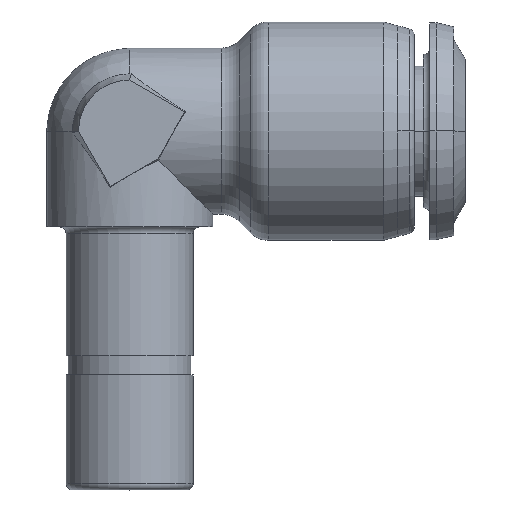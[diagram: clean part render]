
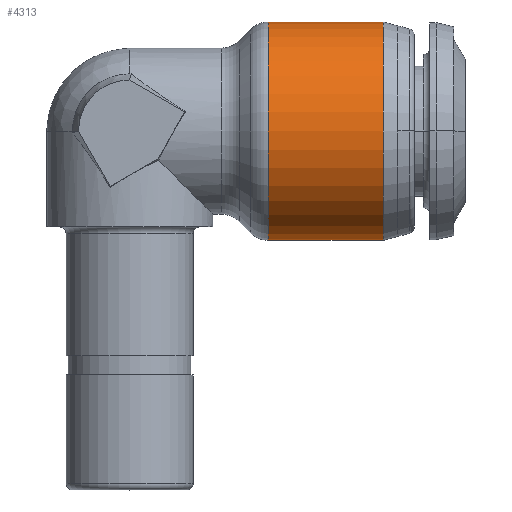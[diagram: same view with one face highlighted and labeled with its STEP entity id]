
A CAD part, top view. The second image highlights one B-rep face of the part: STEP entity #4313.
In plain terms, the highlighted cylindrical face has radius 8.55 mm (diameter 17.1 mm), a partial arc.
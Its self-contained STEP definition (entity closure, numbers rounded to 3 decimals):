
#826 = DIRECTION ( 'NONE',  ( 1., 0., 0. ) ) ;
#869 = DIRECTION ( 'NONE',  ( 0., 1., 0. ) ) ;
#882 = DIRECTION ( 'NONE',  ( 1., 0., 0. ) ) ;
#1130 = CARTESIAN_POINT ( 'NONE',  ( 21., -8.55, 0. ) ) ;
#1202 = CYLINDRICAL_SURFACE ( 'NONE', #4589, 8.55 ) ;
#1426 = ORIENTED_EDGE ( 'NONE', *, *, #1710, .F. ) ;
#1710 = EDGE_CURVE ( 'NONE', #2488, #2487, #1859, .T. ) ;
#1859 = LINE ( 'NONE', #3770, #5571 ) ;
#2036 = EDGE_CURVE ( 'NONE', #2487, #6023, #5145, .T. ) ;
#2203 = EDGE_LOOP ( 'NONE', ( #4758, #5128, #2598, #1426 ) ) ;
#2273 = CARTESIAN_POINT ( 'NONE',  ( 10.878, 0., 0. ) ) ;
#2376 = VERTEX_POINT ( 'NONE', #2818 ) ;
#2487 = VERTEX_POINT ( 'NONE', #3358 ) ;
#2488 = VERTEX_POINT ( 'NONE', #5809 ) ;
#2598 = ORIENTED_EDGE ( 'NONE', *, *, #2036, .F. ) ;
#2676 = EDGE_CURVE ( 'NONE', #2376, #6023, #5384, .T. ) ;
#2722 = DIRECTION ( 'NONE',  ( 1., 0., 0. ) ) ;
#2755 = DIRECTION ( 'NONE',  ( 0., 1., 0. ) ) ;
#2818 = CARTESIAN_POINT ( 'NONE',  ( 10.878, -8.55, 0. ) ) ;
#3250 = AXIS2_PLACEMENT_3D ( 'NONE', #5624, #2722, #6105 ) ;
#3358 = CARTESIAN_POINT ( 'NONE',  ( 19.88, 8.55, 0. ) ) ;
#3471 = FACE_OUTER_BOUND ( 'NONE', #2203, .T. ) ;
#3635 = EDGE_CURVE ( 'NONE', #2488, #2376, #4831, .T. ) ;
#3761 = CARTESIAN_POINT ( 'NONE',  ( 21., 0., 0. ) ) ;
#3770 = CARTESIAN_POINT ( 'NONE',  ( 21., 8.55, 0. ) ) ;
#4078 = VECTOR ( 'NONE', #5493, 1000. ) ;
#4313 = ADVANCED_FACE ( 'NONE', ( #3471 ), #1202, .T. ) ;
#4480 = CARTESIAN_POINT ( 'NONE',  ( 19.88, -8.55, 0. ) ) ;
#4589 = AXIS2_PLACEMENT_3D ( 'NONE', #3761, #826, #869 ) ;
#4758 = ORIENTED_EDGE ( 'NONE', *, *, #3635, .T. ) ;
#4831 = CIRCLE ( 'NONE', #5168, 8.55 ) ;
#5128 = ORIENTED_EDGE ( 'NONE', *, *, #2676, .T. ) ;
#5145 = CIRCLE ( 'NONE', #3250, 8.55 ) ;
#5168 = AXIS2_PLACEMENT_3D ( 'NONE', #2273, #5657, #2755 ) ;
#5384 = LINE ( 'NONE', #1130, #4078 ) ;
#5493 = DIRECTION ( 'NONE',  ( 1., 0., 0. ) ) ;
#5571 = VECTOR ( 'NONE', #882, 1000. ) ;
#5624 = CARTESIAN_POINT ( 'NONE',  ( 19.88, 0., 0. ) ) ;
#5657 = DIRECTION ( 'NONE',  ( 1., 0., 0. ) ) ;
#5809 = CARTESIAN_POINT ( 'NONE',  ( 10.878, 8.55, 0. ) ) ;
#6023 = VERTEX_POINT ( 'NONE', #4480 ) ;
#6105 = DIRECTION ( 'NONE',  ( 0., 1., 0. ) ) ;
